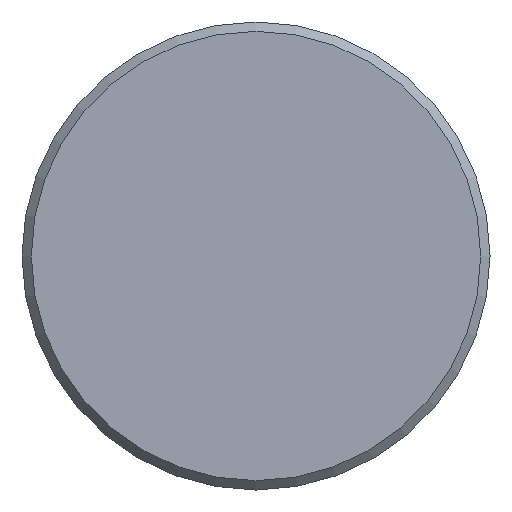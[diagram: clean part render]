
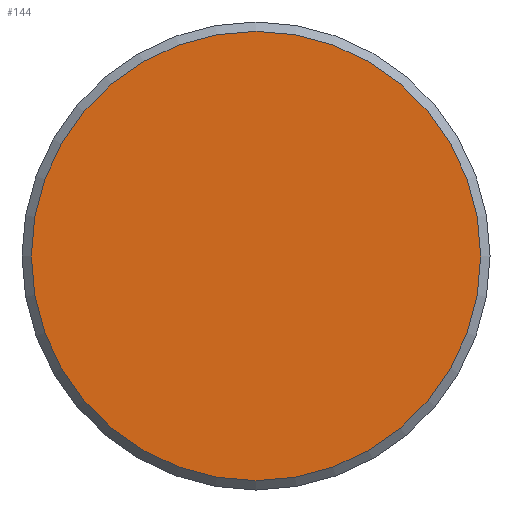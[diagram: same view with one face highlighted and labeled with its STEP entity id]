
A CAD part, left-side view. The second image highlights one B-rep face of the part: STEP entity #144.
In plain terms, the highlighted planar face has unit normal (-1, 0, 0).
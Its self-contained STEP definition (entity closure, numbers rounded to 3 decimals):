
#15=PLANE($,#168);
#40=FACE_OUTER_BOUND($,#58,.T.);
#58=EDGE_LOOP($,(#113));
#71=CIRCLE($,#164,3.048);
#82=VERTEX_POINT($,#242);
#93=EDGE_CURVE($,#82,#82,#71,.T.);
#113=ORIENTED_EDGE($,*,*,#93,.F.);
#144=ADVANCED_FACE($,(#40),#15,.T.);
#164=AXIS2_PLACEMENT_3D($,#243,#202,#203);
#168=AXIS2_PLACEMENT_3D($,#249,#210,#211);
#202=DIRECTION('center_axis',(1.,0.,0.));
#203=DIRECTION('ref_axis',(0.,-1.,0.));
#210=DIRECTION('center_axis',(-1.,0.,0.));
#211=DIRECTION('ref_axis',(0.,0.,1.));
#242=CARTESIAN_POINT('',(-12.73,6.678,0.));
#243=CARTESIAN_POINT('Origin',(-12.73,3.63,0.));
#249=CARTESIAN_POINT('Origin',(-12.73,5.218,0.));
